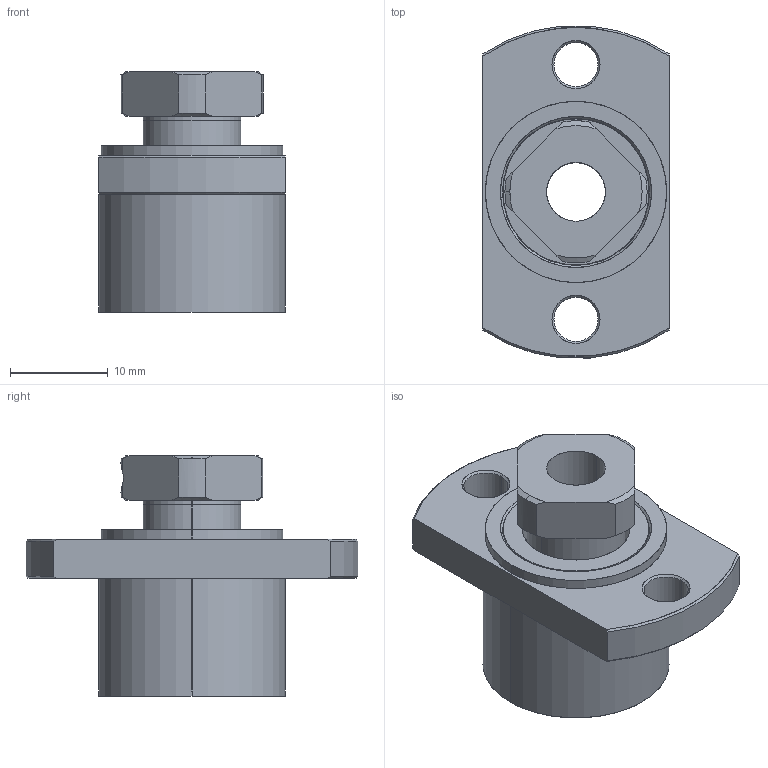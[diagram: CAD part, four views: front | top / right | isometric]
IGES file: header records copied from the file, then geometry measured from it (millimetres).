
Start section: SolidWorks IGES file using analytic representation for surfaces
Bounding box: 19 x 33.88 x 24.5 mm (x, y, z)
Surface area: 5593.5 mm2 (no closed solid volume)
Topology: 0 solids, 0 shells, 118 faces, 1676 edges, 1676 vertices
Faces by surface type: revolution 68, bspline 50
